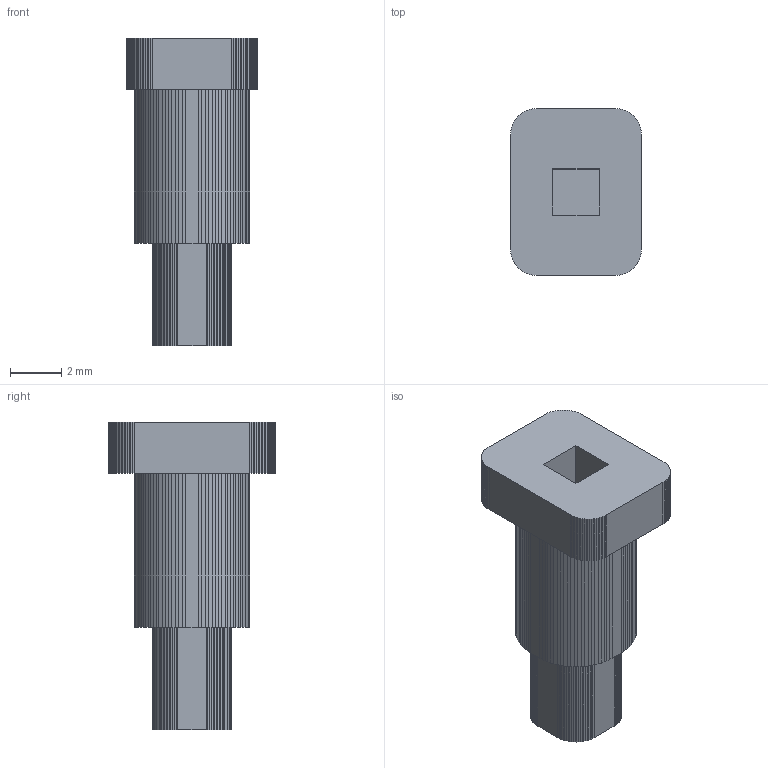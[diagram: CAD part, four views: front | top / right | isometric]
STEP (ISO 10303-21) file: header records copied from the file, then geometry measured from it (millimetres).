
FILE_DESCRIPTION(('Designed by EasyEDA Pro'),'2;1');
FILE_NAME('Open CASCADE Shape Model','2025-12-08T20:20:32',('Author'),( 'Open CASCADE'),'Open CASCADE STEP processor 7.8','Open CASCADE 7.8' ,'Unknown');
FILE_SCHEMA(('AUTOMOTIVE_DESIGN { 1 0 10303 214 1 1 1 1 }'));
Length unit declared in the file: millimetre
Products named in the file (1): Open CASCADE STEP translator 7.8 2
Bounding box: 5.1 x 6.5 x 12 mm (x, y, z)
Volume: 168 mm3; surface area: 309.7 mm2
Topology: 1 solids, 1 shells, 297 faces, 876 edges, 584 vertices
Faces by surface type: bspline 297
Entity records: 18460 total; most frequent: CARTESIAN_POINT 7029, B_SPLINE_CURVE_WITH_KNOTS 2628, ORIENTED_EDGE 1752, PCURVE 1752, DEFINITIONAL_REPRESENTATION 1752, EDGE_CURVE 876, SURFACE_CURVE 876, VERTEX_POINT 584
